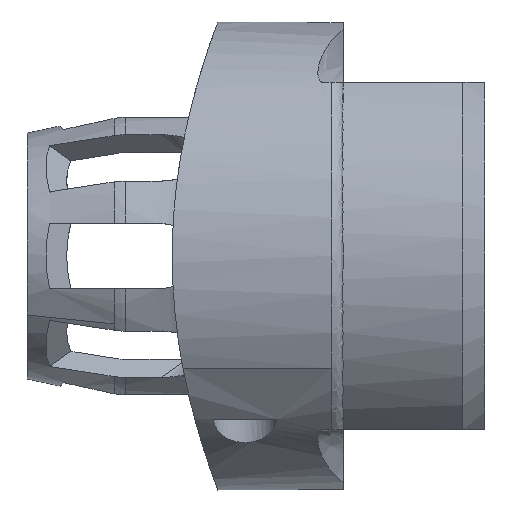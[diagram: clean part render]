
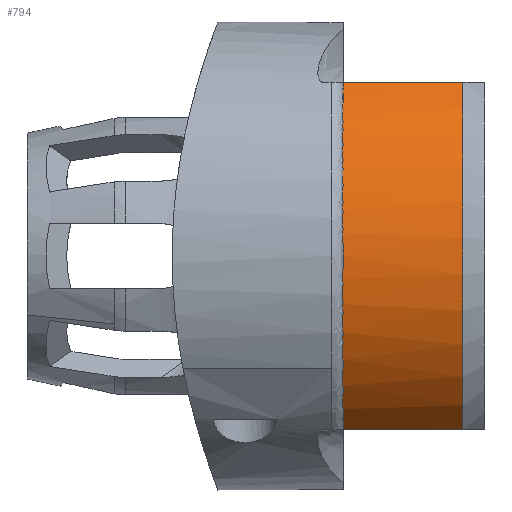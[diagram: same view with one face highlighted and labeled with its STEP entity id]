
A CAD part, front view. The second image highlights one B-rep face of the part: STEP entity #794.
In plain terms, the highlighted free-form (B-spline) face has degree [1, 2] with [2, 3] control points.
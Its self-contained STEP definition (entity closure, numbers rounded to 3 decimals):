
#794=ADVANCED_FACE('',(#2064),#2065,.F.);
#1632=VERTEX_POINT('',#2947);
#1656=EDGE_CURVE('',#1632,#2970,#2973,.T.);
#1678=VERTEX_POINT('',#2996);
#1682=EDGE_CURVE('',#1678,#3000,#3001,.T.);
#1746=EDGE_CURVE('',#1678,#1632,#3065,.T.);
#2064=FACE_OUTER_BOUND('',#4716,.T.);
#2065=(B_SPLINE_SURFACE(1,2,((#4718,#4719,#4720),(#4721,#4722,#4723)),.UNSPECIFIED.,.F.,.F.,.F.)B_SPLINE_SURFACE_WITH_KNOTS((2,2),(3,3),(0.0,1.0),(0.0,1.0),.UNSPECIFIED.)RATIONAL_B_SPLINE_SURFACE(((1.0,0.603,1.0),(1.0,0.603,1.0)))BOUNDED_SURFACE()REPRESENTATION_ITEM('')GEOMETRIC_REPRESENTATION_ITEM()SURFACE());
#2947=CARTESIAN_POINT('',(-2.,-12.066,15.95));
#2970=VERTEX_POINT('',#7070);
#2973=LINE('',#7082,#7083);
#2996=CARTESIAN_POINT('',(-2.,-12.066,-15.95));
#3000=VERTEX_POINT('',#7137);
#3001=LINE('',#7138,#7139);
#3065=CIRCLE('',#7255,20.0);
#4716=EDGE_LOOP('',(#7991,#7992,#7993,#7994));
#4718=CARTESIAN_POINT('',(-13.075,-12.066,15.95));
#4719=CARTESIAN_POINT('',(-13.075,-33.15,0.));
#4720=CARTESIAN_POINT('',(-13.075,-12.066,-15.95));
#4721=CARTESIAN_POINT('',(-2.,-12.066,15.95));
#4722=CARTESIAN_POINT('',(-2.,-33.15,0.));
#4723=CARTESIAN_POINT('',(-2.,-12.066,-15.95));
#7070=CARTESIAN_POINT('',(-13.075,-12.066,15.95));
#7082=CARTESIAN_POINT('',(-2.,-12.066,15.95));
#7083=VECTOR('',#8329,1.0);
#7137=CARTESIAN_POINT('',(-13.075,-12.066,-15.95));
#7138=CARTESIAN_POINT('',(-2.,-12.066,-15.95));
#7139=VECTOR('',#8336,1.0);
#7255=AXIS2_PLACEMENT_3D('',#8382,#8383,#8384);
#7991=ORIENTED_EDGE('',*,*,#8509,.F.);
#7992=ORIENTED_EDGE('',*,*,#1682,.F.);
#7993=ORIENTED_EDGE('',*,*,#1746,.T.);
#7994=ORIENTED_EDGE('',*,*,#1656,.T.);
#8329=DIRECTION('',(-1.0,0.,0.));
#8336=DIRECTION('',(-1.0,0.,0.));
#8382=CARTESIAN_POINT('',(-2.,0.,0.));
#8383=DIRECTION('',(-1.0,0.,0.));
#8384=DIRECTION('',(0.,-0.603,-0.798));
#8509=EDGE_CURVE('',#3000,#2970,#8636,.T.);
#8636=(B_SPLINE_CURVE(3,(#8782,#8783,#8784,#8785,#8786,#8787,#8788,#8789,#8790,#8791),.UNSPECIFIED.,.F.,.F.)B_SPLINE_CURVE_WITH_KNOTS((4,3,1,1,1,4),(0.0,0.229,0.419,0.615,0.811,1.0),.UNSPECIFIED.)RATIONAL_B_SPLINE_CURVE((1.0,0.985,0.985,1.0,1.0,1.0,1.0,1.0,1.0,1.0))BOUNDED_CURVE()REPRESENTATION_ITEM('')GEOMETRIC_REPRESENTATION_ITEM()CURVE());
#8782=CARTESIAN_POINT('',(-13.075,-12.066,-15.95));
#8783=CARTESIAN_POINT('',(-13.075,-14.333,-14.235));
#8784=CARTESIAN_POINT('',(-13.075,-16.189,-12.083));
#8785=CARTESIAN_POINT('',(-13.075,-17.552,-9.589));
#8786=CARTESIAN_POINT('',(-13.075,-18.649,-7.58));
#8787=CARTESIAN_POINT('',(-13.075,-20.183,-3.143));
#8788=CARTESIAN_POINT('',(-13.075,-20.014,4.32));
#8789=CARTESIAN_POINT('',(-13.075,-17.093,11.178));
#8790=CARTESIAN_POINT('',(-13.075,-13.883,14.576));
#8791=CARTESIAN_POINT('',(-13.075,-12.066,15.95));
